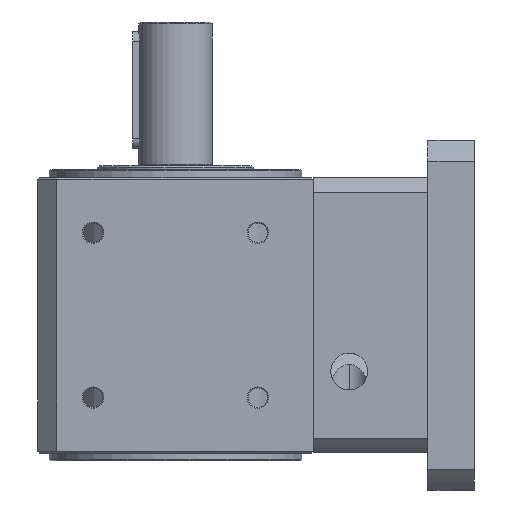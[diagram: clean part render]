
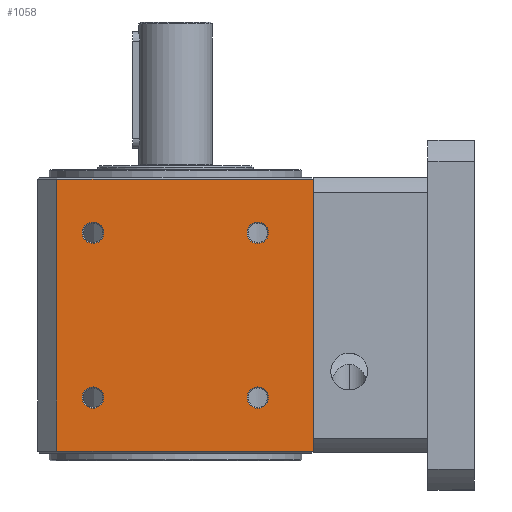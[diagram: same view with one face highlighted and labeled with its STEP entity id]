
A CAD part, front view. The second image highlights one B-rep face of the part: STEP entity #1058.
In plain terms, the highlighted planar face has unit normal (0, -1, 0).
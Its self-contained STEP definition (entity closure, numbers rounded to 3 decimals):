
#7 = VECTOR ( 'NONE', #4921, 1000. ) ;
#197 = VERTEX_POINT ( 'NONE', #3613 ) ;
#199 = VERTEX_POINT ( 'NONE', #3615 ) ;
#250 = VERTEX_POINT ( 'NONE', #3666 ) ;
#251 = VERTEX_POINT ( 'NONE', #3667 ) ;
#256 = VERTEX_POINT ( 'NONE', #3672 ) ;
#257 = VERTEX_POINT ( 'NONE', #3673 ) ;
#262 = VERTEX_POINT ( 'NONE', #3678 ) ;
#266 = VERTEX_POINT ( 'NONE', #3682 ) ;
#360 = VERTEX_POINT ( 'NONE', #3749 ) ;
#363 = VERTEX_POINT ( 'NONE', #3752 ) ;
#374 = VERTEX_POINT ( 'NONE', #3763 ) ;
#375 = VERTEX_POINT ( 'NONE', #3764 ) ;
#838 = EDGE_CURVE ( 'NONE', #360, #363, #4919, .T. ) ;
#950 = EDGE_CURVE ( 'NONE', #250, #251, #4351, .T. ) ;
#982 = EDGE_CURVE ( 'NONE', #256, #257, #4353, .T. ) ;
#989 = EDGE_CURVE ( 'NONE', #197, #199, #4369, .T. ) ;
#996 = EDGE_CURVE ( 'NONE', #262, #266, #4372, .T. ) ;
#1042 = EDGE_CURVE ( 'NONE', #363, #374, #5538, .T. ) ;
#1045 = EDGE_CURVE ( 'NONE', #266, #262, #4398, .T. ) ;
#1048 = EDGE_CURVE ( 'NONE', #199, #197, #4401, .T. ) ;
#1051 = EDGE_CURVE ( 'NONE', #257, #256, #4404, .T. ) ;
#1054 = EDGE_CURVE ( 'NONE', #251, #250, #5989, .T. ) ;
#1058 = ADVANCED_FACE ( 'NONE', ( #5852, #5855, #5857, #5859, #5861 ), #6451, .F. ) ;
#1080 = EDGE_CURVE ( 'NONE', #374, #375, #6527, .T. ) ;
#1081 = EDGE_CURVE ( 'NONE', #360, #375, #6531, .T. ) ;
#1400 = EDGE_LOOP ( 'NONE', ( #1913, #1914 ) ) ;
#1401 = EDGE_LOOP ( 'NONE', ( #1915, #1916 ) ) ;
#1402 = EDGE_LOOP ( 'NONE', ( #1917, #1918 ) ) ;
#1403 = EDGE_LOOP ( 'NONE', ( #1919, #1920 ) ) ;
#1404 = EDGE_LOOP ( 'NONE', ( #1921, #1922, #1912, #1923 ) ) ;
#1912 = ORIENTED_EDGE ( 'NONE', *, *, #1081, .F. ) ;
#1913 = ORIENTED_EDGE ( 'NONE', *, *, #1054, .F. ) ;
#1914 = ORIENTED_EDGE ( 'NONE', *, *, #950, .F. ) ;
#1915 = ORIENTED_EDGE ( 'NONE', *, *, #1051, .F. ) ;
#1916 = ORIENTED_EDGE ( 'NONE', *, *, #982, .F. ) ;
#1917 = ORIENTED_EDGE ( 'NONE', *, *, #1048, .F. ) ;
#1918 = ORIENTED_EDGE ( 'NONE', *, *, #989, .F. ) ;
#1919 = ORIENTED_EDGE ( 'NONE', *, *, #1045, .F. ) ;
#1920 = ORIENTED_EDGE ( 'NONE', *, *, #996, .F. ) ;
#1921 = ORIENTED_EDGE ( 'NONE', *, *, #1042, .T. ) ;
#1922 = ORIENTED_EDGE ( 'NONE', *, *, #1080, .T. ) ;
#1923 = ORIENTED_EDGE ( 'NONE', *, *, #838, .T. ) ;
#3613 = CARTESIAN_POINT ( 'NONE',  ( 42.426, -71., 122.926 ) ) ;
#3615 = CARTESIAN_POINT ( 'NONE',  ( 42.426, -71., 111.926 ) ) ;
#3666 = CARTESIAN_POINT ( 'NONE',  ( -42.426, -71., 38.074 ) ) ;
#3667 = CARTESIAN_POINT ( 'NONE',  ( -42.426, -71., 27.074 ) ) ;
#3672 = CARTESIAN_POINT ( 'NONE',  ( 42.426, -71., 38.074 ) ) ;
#3673 = CARTESIAN_POINT ( 'NONE',  ( 42.426, -71., 27.074 ) ) ;
#3678 = CARTESIAN_POINT ( 'NONE',  ( -42.426, -71., 122.926 ) ) ;
#3682 = CARTESIAN_POINT ( 'NONE',  ( -42.426, -71., 111.926 ) ) ;
#3749 = CARTESIAN_POINT ( 'NONE',  ( 71.001, -71., 145. ) ) ;
#3752 = CARTESIAN_POINT ( 'NONE',  ( -61., -71., 145. ) ) ;
#3763 = CARTESIAN_POINT ( 'NONE',  ( -61., -71., 5. ) ) ;
#3764 = CARTESIAN_POINT ( 'NONE',  ( 71.001, -71., 5. ) ) ;
#4351 = CIRCLE ( 'NONE', #5703, 5.5 ) ;
#4353 = CIRCLE ( 'NONE', #5772, 5.5 ) ;
#4369 = CIRCLE ( 'NONE', #5779, 5.5 ) ;
#4372 = CIRCLE ( 'NONE', #5786, 5.5 ) ;
#4398 = CIRCLE ( 'NONE', #5830, 5.5 ) ;
#4401 = CIRCLE ( 'NONE', #5838, 5.5 ) ;
#4404 = CIRCLE ( 'NONE', #5841, 5.5 ) ;
#4919 = LINE ( 'NONE', #4920, #7 ) ;
#4920 = CARTESIAN_POINT ( 'NONE',  ( -61., -71., 145. ) ) ;
#4921 = DIRECTION ( 'NONE',  ( -1., 0., 0. ) ) ;
#5261 = CARTESIAN_POINT ( 'NONE',  ( -42.426, -71., 32.574 ) ) ;
#5262 = DIRECTION ( 'NONE',  ( 0., -1., 0. ) ) ;
#5263 = DIRECTION ( 'NONE',  ( 0., 0., -1. ) ) ;
#5357 = CARTESIAN_POINT ( 'NONE',  ( 42.426, -71., 32.574 ) ) ;
#5358 = DIRECTION ( 'NONE',  ( 0., -1., 0. ) ) ;
#5359 = DIRECTION ( 'NONE',  ( 0., 0., -1. ) ) ;
#5378 = CARTESIAN_POINT ( 'NONE',  ( 42.426, -71., 117.426 ) ) ;
#5379 = DIRECTION ( 'NONE',  ( 0., -1., 0. ) ) ;
#5380 = DIRECTION ( 'NONE',  ( 0., 0., -1. ) ) ;
#5399 = CARTESIAN_POINT ( 'NONE',  ( -42.426, -71., 117.426 ) ) ;
#5400 = DIRECTION ( 'NONE',  ( 0., -1., 0. ) ) ;
#5401 = DIRECTION ( 'NONE',  ( 0., 0., -1. ) ) ;
#5538 = LINE ( 'NONE', #5539, #5836 ) ;
#5539 = CARTESIAN_POINT ( 'NONE',  ( -61., -71., 150. ) ) ;
#5540 = DIRECTION ( 'NONE',  ( 0., 0., -1. ) ) ;
#5546 = CARTESIAN_POINT ( 'NONE',  ( -42.426, -71., 117.426 ) ) ;
#5547 = DIRECTION ( 'NONE',  ( 0., -1., 0. ) ) ;
#5548 = DIRECTION ( 'NONE',  ( 0., 0., -1. ) ) ;
#5555 = CARTESIAN_POINT ( 'NONE',  ( 42.426, -71., 117.426 ) ) ;
#5556 = DIRECTION ( 'NONE',  ( 0., -1., 0. ) ) ;
#5557 = DIRECTION ( 'NONE',  ( 0., 0., -1. ) ) ;
#5564 = CARTESIAN_POINT ( 'NONE',  ( 42.426, -71., 32.574 ) ) ;
#5565 = DIRECTION ( 'NONE',  ( 0., -1., 0. ) ) ;
#5566 = DIRECTION ( 'NONE',  ( 0., 0., -1. ) ) ;
#5573 = CARTESIAN_POINT ( 'NONE',  ( -42.426, -71., 32.574 ) ) ;
#5703 = AXIS2_PLACEMENT_3D ( 'NONE', #5261, #5262, #5263 ) ;
#5772 = AXIS2_PLACEMENT_3D ( 'NONE', #5357, #5358, #5359 ) ;
#5779 = AXIS2_PLACEMENT_3D ( 'NONE', #5378, #5379, #5380 ) ;
#5786 = AXIS2_PLACEMENT_3D ( 'NONE', #5399, #5400, #5401 ) ;
#5830 = AXIS2_PLACEMENT_3D ( 'NONE', #5546, #5547, #5548 ) ;
#5836 = VECTOR ( 'NONE', #5540, 1000. ) ;
#5838 = AXIS2_PLACEMENT_3D ( 'NONE', #5555, #5556, #5557 ) ;
#5841 = AXIS2_PLACEMENT_3D ( 'NONE', #5564, #5565, #5566 ) ;
#5844 = AXIS2_PLACEMENT_3D ( 'NONE', #5573, #6440, #6441 ) ;
#5851 = AXIS2_PLACEMENT_3D ( 'NONE', #6452, #6453, #6454 ) ;
#5852 = FACE_BOUND ( 'NONE', #1400, .T. ) ;
#5855 = FACE_BOUND ( 'NONE', #1401, .T. ) ;
#5857 = FACE_BOUND ( 'NONE', #1402, .T. ) ;
#5859 = FACE_BOUND ( 'NONE', #1403, .T. ) ;
#5861 = FACE_OUTER_BOUND ( 'NONE', #1404, .T. ) ;
#5914 = VECTOR ( 'NONE', #6529, 1000. ) ;
#5916 = VECTOR ( 'NONE', #6533, 1000. ) ;
#5989 = CIRCLE ( 'NONE', #5844, 5.5 ) ;
#6440 = DIRECTION ( 'NONE',  ( 0., -1., 0. ) ) ;
#6441 = DIRECTION ( 'NONE',  ( 0., 0., -1. ) ) ;
#6451 = PLANE ( 'NONE',  #5851 ) ;
#6452 = CARTESIAN_POINT ( 'NONE',  ( -71., -71., 150. ) ) ;
#6453 = DIRECTION ( 'NONE',  ( 0., 1., 0. ) ) ;
#6454 = DIRECTION ( 'NONE',  ( -1., 0., 0. ) ) ;
#6527 = LINE ( 'NONE', #6528, #5914 ) ;
#6528 = CARTESIAN_POINT ( 'NONE',  ( 71.001, -71., 5. ) ) ;
#6529 = DIRECTION ( 'NONE',  ( 1., 0., 0. ) ) ;
#6531 = LINE ( 'NONE', #6532, #5916 ) ;
#6532 = CARTESIAN_POINT ( 'NONE',  ( 71.001, -71., 146. ) ) ;
#6533 = DIRECTION ( 'NONE',  ( 0., 0., -1. ) ) ;
